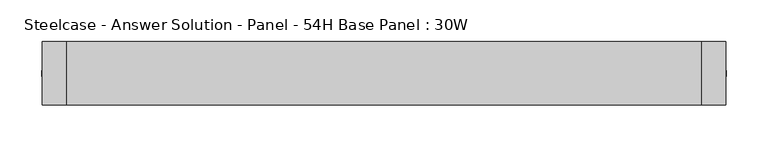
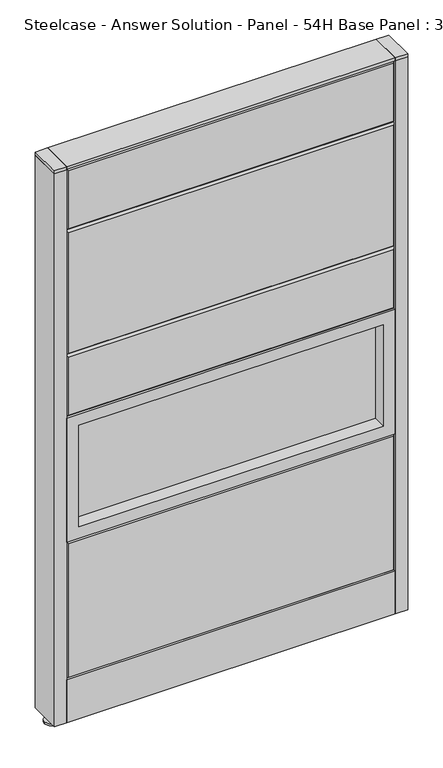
"""IFC4 building model written with IfcOpenShell, lengths in millimetres: furniture geometry, Steelcase - Answer Solution - Panel - 54H Base Panel : 30W."""

from ifc_helpers import new_model, si_unit, point, frame, frame_2d, origin, place, context, project, spatial, polyline, circle_curve, trimmed, segment, composite_curve, outline, extrude, faceted_brep, source, transform, mapped, element, save


def steelcase_answer_solution_panel_54h_base_panel_30w_c2397c51(model_context):
    return source(origin(), model_context, "Body", "SolidModel", [
        extrude(outline(composite_curve([segment(trimmed(circle_curve(frame_2d((395.224, 0.0320214)), 5.08), [point((400.304, 0.0320214))], [point((390.144, 0.0320214))], False, "CARTESIAN"), True, "CONTINUOUS"), segment(trimmed(circle_curve(frame_2d((395.224, 0.0320214)), 5.08), [point((390.144, 0.0320214))], [point((400.304, 0.0320214))], False, "CARTESIAN"), True, "CONTINUOUS")], self_intersect=False)), frame((0.0, 0.0, 5.0799671), z_axis=(0.0, 0.0, 1.0), x_axis=(1.0, 0.0, 0.0)), (0.0, 0.0, 1.0), 10.414),
        extrude(outline(composite_curve([segment(trimmed(circle_curve(frame_2d((395.224, 0.0320214)), 15.24), [point((410.464, 0.0320214))], [point((379.984, 0.0320214))], False, "CARTESIAN"), True, "CONTINUOUS"), segment(trimmed(circle_curve(frame_2d((395.224, 0.0320214)), 15.24), [point((379.984, 0.0320214))], [point((410.464, 0.0320214))], False, "CARTESIAN"), True, "CONTINUOUS")], self_intersect=False)), frame((0.0, 0.0, -3.29e-05), z_axis=(0.0, 0.0, 1.0), x_axis=(1.0, 0.0, 0.0)), (0.0, 0.0, 1.0), 5.08),
        extrude(outline(polyline([(409.575, 38.1320408), (409.575, -38.0679592), (381.0, -38.0679592), (381.0, 38.1320408), (409.575, 38.1320408)])), frame((0.0, 0.0, 1370.6348), z_axis=(0.0, 0.0, 1.0), x_axis=(1.0, 0.0, 0.0)), (0.0, 0.0, 1.0), 7.3151671),
        extrude(outline(polyline([(409.575, 38.1320408), (409.575, -38.0679592), (381.0, -38.0679592), (381.0, 38.1320408), (409.575, 38.1320408)])), frame((0.0, 0.0, 15.4939671), z_axis=(0.0, 0.0, 1.0), x_axis=(1.0, 0.0, 0.0)), (0.0, 0.0, 1.0), 1355.1408329),
        extrude(outline(composite_curve([segment(trimmed(circle_curve(frame_2d((-395.224, 0.0320214)), 5.08), [point((-400.304, 0.0320214))], [point((-390.144, 0.0320214))], False, "CARTESIAN"), True, "CONTINUOUS"), segment(trimmed(circle_curve(frame_2d((-395.224, 0.0320214)), 5.08), [point((-390.144, 0.0320214))], [point((-400.304, 0.0320214))], False, "CARTESIAN"), True, "CONTINUOUS")], self_intersect=False)), frame((0.0, 0.0, 5.0799671), z_axis=(0.0, 0.0, 1.0), x_axis=(1.0, 0.0, 0.0)), (0.0, 0.0, 1.0), 10.414),
        extrude(outline(composite_curve([segment(trimmed(circle_curve(frame_2d((-395.224, 0.0320214)), 15.24), [point((-410.464, 0.0320214))], [point((-379.984, 0.0320214))], False, "CARTESIAN"), True, "CONTINUOUS"), segment(trimmed(circle_curve(frame_2d((-395.224, 0.0320214)), 15.24), [point((-379.984, 0.0320214))], [point((-410.464, 0.0320214))], False, "CARTESIAN"), True, "CONTINUOUS")], self_intersect=False)), frame((0.0, 0.0, -3.29e-05), z_axis=(0.0, 0.0, 1.0), x_axis=(1.0, 0.0, 0.0)), (0.0, 0.0, 1.0), 5.08),
        extrude(outline(polyline([(-409.575, 38.1320408), (-381.0, 38.1320408), (-381.0, -38.0679592), (-409.575, -38.0679592), (-409.575, 38.1320408)])), frame((0.0, 0.0, 1370.6348), z_axis=(0.0, 0.0, 1.0), x_axis=(1.0, 0.0, 0.0)), (0.0, 0.0, 1.0), 7.3151671),
        extrude(outline(polyline([(-409.575, 38.1320408), (-381.0, 38.1320408), (-381.0, -38.0679592), (-409.575, -38.0679592), (-409.575, 38.1320408)])), frame((0.0, 0.0, 15.4939671), z_axis=(0.0, 0.0, 1.0), x_axis=(1.0, 0.0, 0.0)), (0.0, 0.0, 1.0), 1355.1408329),
        faceted_brep([(-376.174, 38.1635011, 1366.774), (376.174, 38.1635011, 1366.774), (376.174, 38.1635011, 1224.026), (-376.174, 38.1635011, 1224.026), (-381.0, 33.3375011, 1371.6), (-381.0, 33.3375011, 1219.2), (381.0, 33.3375011, 1219.2), (381.0, 33.3375011, 1371.6)], [[[0, 1, 2, 3]], [[4, 5, 6, 7]], [[4, 7, 1, 0]], [[7, 6, 2, 1]], [[6, 5, 3, 2]], [[5, 4, 0, 3]]]),
        extrude(outline(polyline([(-353.06, 6.346049), (353.06, 6.346049), (353.06, -6.353951), (-353.06, -6.353951), (-353.06, 6.346049)])), frame((0.0, 0.0, 485.14), z_axis=(0.0, 0.0, 1.0), x_axis=(1.0, 0.0, 0.0)), (0.0, 0.0, 1.0), 248.92),
        extrude(outline(polyline([(762.0, -381.0), (457.2, -381.0), (457.2, 381.0), (762.0, 381.0), (762.0, -381.0)]), holes=[polyline([(734.06, -353.06), (734.06, 353.06), (485.14, 353.06), (485.14, -353.06), (734.06, -353.06)])]), frame((0.0, -38.103951, 0.0), z_axis=(0.0, 1.0, 0.0), x_axis=(0.0, 0.0, 1.0)), (0.0, 0.0, 1.0), 76.2),
        faceted_brep([(-376.174, 38.1635011, 1214.374), (376.174, 38.1635011, 1214.374), (376.174, 38.1635011, 919.226), (-376.174, 38.1635011, 919.226), (-381.0, 33.3375011, 1219.2), (-381.0, 33.3375011, 914.4), (381.0, 33.3375011, 914.4), (381.0, 33.3375011, 1219.2)], [[[0, 1, 2, 3]], [[4, 5, 6, 7]], [[4, 7, 1, 0]], [[7, 6, 2, 1]], [[6, 5, 3, 2]], [[5, 4, 0, 3]]]),
        faceted_brep([(-376.174, 38.1635011, 909.574), (376.174, 38.1635011, 909.574), (376.174, 38.1635011, 766.826), (-376.174, 38.1635011, 766.826), (-381.0, 33.3375011, 914.4), (-381.0, 33.3375011, 762.0), (381.0, 33.3375011, 762.0), (381.0, 33.3375011, 914.4)], [[[0, 1, 2, 3]], [[4, 5, 6, 7]], [[4, 7, 1, 0]], [[7, 6, 2, 1]], [[6, 5, 3, 2]], [[5, 4, 0, 3]]]),
        faceted_brep([(-376.174, 38.1635011, 452.374), (376.174, 38.1635011, 452.374), (376.174, 38.1635011, 125.476), (-376.174, 38.1635011, 125.476), (-381.0, 33.3375011, 457.2), (-381.0, 33.3375011, 120.65), (381.0, 33.3375011, 120.65), (381.0, 33.3375011, 457.2)], [[[0, 1, 2, 3]], [[4, 5, 6, 7]], [[4, 7, 1, 0]], [[7, 6, 2, 1]], [[6, 5, 3, 2]], [[5, 4, 0, 3]]]),
        faceted_brep([(376.174, -38.1635011, 1366.774), (-376.174, -38.1635011, 1366.774), (-376.174, -38.1635011, 1224.026), (376.174, -38.1635011, 1224.026), (381.0, -33.3375011, 1371.6), (381.0, -33.3375011, 1219.2), (-381.0, -33.3375011, 1219.2), (-381.0, -33.3375011, 1371.6)], [[[0, 1, 2, 3]], [[4, 5, 6, 7]], [[4, 7, 1, 0]], [[7, 6, 2, 1]], [[6, 5, 3, 2]], [[5, 4, 0, 3]]]),
        extrude(outline(polyline([(353.06, -6.346049), (-353.06, -6.346049), (-353.06, 6.353951), (353.06, 6.353951), (353.06, -6.346049)])), frame((0.0, 0.0, 485.14), z_axis=(0.0, 0.0, 1.0), x_axis=(1.0, 0.0, 0.0)), (0.0, 0.0, 1.0), 248.92),
        extrude(outline(polyline([(762.0, 381.0), (762.0, -381.0), (457.2, -381.0), (457.2, 381.0), (762.0, 381.0)]), holes=[polyline([(734.06, 353.06), (485.14, 353.06), (485.14, -353.06), (734.06, -353.06), (734.06, 353.06)])]), frame((0.0, -38.096049, 0.0), z_axis=(0.0, 1.0, 0.0), x_axis=(0.0, 0.0, 1.0)), (0.0, 0.0, 1.0), 76.2),
        faceted_brep([(376.174, -38.1635011, 1214.374), (-376.174, -38.1635011, 1214.374), (-376.174, -38.1635011, 919.226), (376.174, -38.1635011, 919.226), (381.0, -33.3375011, 1219.2), (381.0, -33.3375011, 914.4), (-381.0, -33.3375011, 914.4), (-381.0, -33.3375011, 1219.2)], [[[0, 1, 2, 3]], [[4, 5, 6, 7]], [[4, 7, 1, 0]], [[7, 6, 2, 1]], [[6, 5, 3, 2]], [[5, 4, 0, 3]]]),
        faceted_brep([(376.174, -38.1635011, 909.574), (-376.174, -38.1635011, 909.574), (-376.174, -38.1635011, 766.826), (376.174, -38.1635011, 766.826), (381.0, -33.3375011, 914.4), (381.0, -33.3375011, 762.0), (-381.0, -33.3375011, 762.0), (-381.0, -33.3375011, 914.4)], [[[0, 1, 2, 3]], [[4, 5, 6, 7]], [[4, 7, 1, 0]], [[7, 6, 2, 1]], [[6, 5, 3, 2]], [[5, 4, 0, 3]]]),
        faceted_brep([(376.174, -38.1635011, 452.374), (-376.174, -38.1635011, 452.374), (-376.174, -38.1635011, 125.476), (376.174, -38.1635011, 125.476), (381.0, -33.3375011, 457.2), (381.0, -33.3375011, 120.65), (-381.0, -33.3375011, 120.65), (-381.0, -33.3375011, 457.2)], [[[0, 1, 2, 3]], [[4, 5, 6, 7]], [[4, 7, 1, 0]], [[7, 6, 2, 1]], [[6, 5, 3, 2]], [[5, 4, 0, 3]]]),
        extrude(outline(polyline([(381.0, 38.1000194), (381.0, -38.1000194), (-381.0, -38.1000194), (-381.0, 38.1000194), (381.0, 38.1000194)])), frame((0.0, 0.0, 1371.6), z_axis=(0.0, 0.0, 1.0), x_axis=(1.0, 0.0, 0.0)), (0.0, 0.0, 1.0), 6.35),
        extrude(outline(polyline([(25.4000011, 119.8575157), (25.4000011, 120.65), (38.1000194, 120.65), (38.1000194, 15.494), (37.3075215, 15.494), (37.3075215, 119.8575157), (25.4000011, 119.8575157)])), frame((-381.0, 0.0, 0.0), z_axis=(1.0, 0.0, 0.0), x_axis=(0.0, 1.0, 0.0)), (0.0, 0.0, 1.0), 762.0),
        extrude(outline(polyline([(-25.4000011, 119.8575157), (-37.3075215, 119.8575157), (-37.3075215, 15.494), (-38.1000194, 15.494), (-38.1000194, 120.65), (-25.4000011, 120.65), (-25.4000011, 119.8575157)])), frame((-381.0, 0.0, 0.0), z_axis=(1.0, 0.0, 0.0), x_axis=(0.0, 1.0, 0.0)), (0.0, 0.0, 1.0), 762.0),
    ])


if __name__ == "__main__":
    model = new_model("IFC4")
    model_context = context("Model", 3, world=origin())
    ifc_project = project(units=[si_unit("LENGTHUNIT", "METRE", prefix="MILLI")], contexts=[model_context])
    site = spatial("IfcSite", under=ifc_project)
    building = spatial("IfcBuilding", under=site)
    placement = place(None, origin())
    steelcase_answer_solution_panel_54h_base_panel_30w_shape = steelcase_answer_solution_panel_54h_base_panel_30w_c2397c51(model_context)
    element("IfcFurniture", 1, ObjectType="Steelcase - Answer Solution - Panel - 54H Base Panel : 30W", at=placement, inside=building, context=model_context, shape_type="MappedRepresentation", body=[
        mapped(steelcase_answer_solution_panel_54h_base_panel_30w_shape, transform((0.0, 0.0, 0.0), x_axis=(1.0, 0.0, 0.0), y_axis=(0.0, 1.0, 0.0), z_axis=(0.0, 0.0, 1.0))),
    ])
    save(model, "model.ifc")
